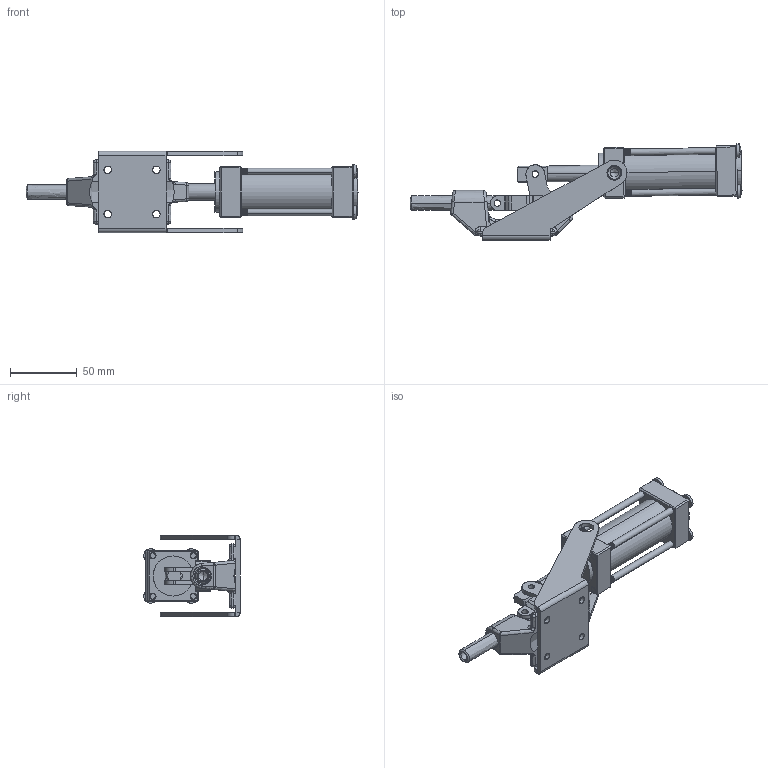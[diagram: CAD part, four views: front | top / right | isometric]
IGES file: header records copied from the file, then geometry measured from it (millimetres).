
Start section: SolidWorks IGES file using analytic representation for surfaces
Global section: file name: D:\GH Files\GH-SW-FILES\GH-A\36003A\GH-36003A.IGS; native system: SolidWorks 2006 by SolidWorks Corporation; preprocessor: SolidWorks 2006 by SolidWorks Corporation; author: Administrator; date: 060526.122519; units: millimetre
Bounding box: 248.87 x 72.33 x 61 mm (x, y, z)
Surface area: 80559.1 mm2 (no closed solid volume)
Topology: 0 solids, 0 shells, 1235 faces, 11122 edges, 11104 vertices
Faces by surface type: revolution 919, bspline 316
